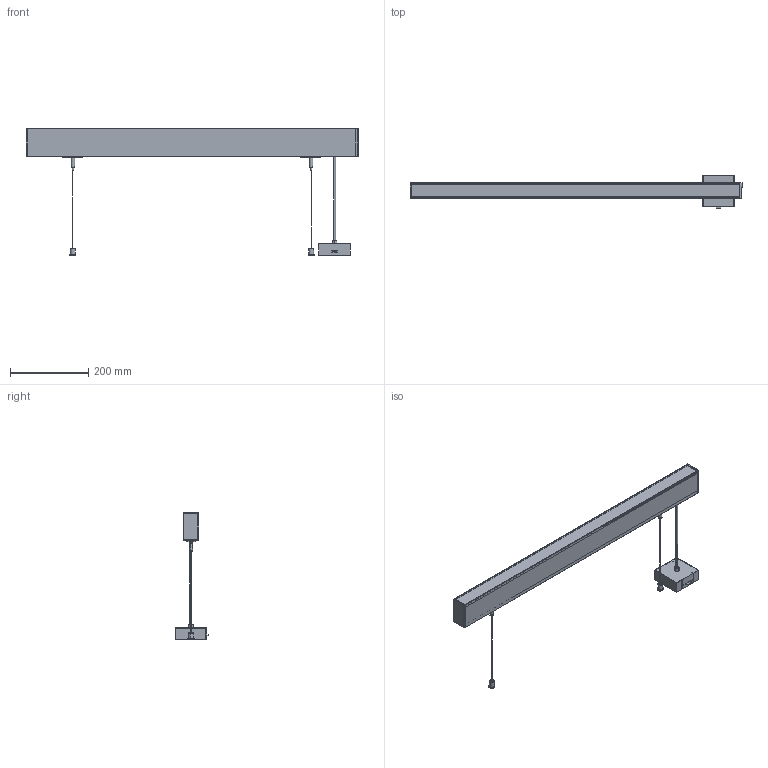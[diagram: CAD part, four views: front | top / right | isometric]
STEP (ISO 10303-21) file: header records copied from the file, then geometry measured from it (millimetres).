
FILE_DESCRIPTION(/* description */ (''),/* implementation_level */ '2;1');
FILE_NAME(/* name */ 'C:\Users\FrancoSartori\Documents\FARO\01_En Proceso\0000_2022\000_PRO\00_VIA EVOLUTION\01_RFA_3D_Trabajo\suspension_kit_3d.stp',/* time_stamp */ '2022-08-03T12:39:07+02:00',/* author */ ('FrancoSartori'),/* organization */ (''),/* preprocessor_version */ 'ST-DEVELOPER v19',/* originating_system */ 'AutoCAD Mechanical',/* authorisation */ '');
FILE_SCHEMA (('AUTOMOTIVE_DESIGN { 1 0 10303 214 3 1 1 }'));
Length unit declared in the file: millimetre
Products named in the file (2): Product; VIA S_ - Lamp-365793-Export
Assembly tree (1 placements, depth 2):
  Product
    VIA S_ - Lamp-365793-Export
Bounding box: 850 x 86.28 x 323.55 mm (x, y, z)
Volume: 507051.7 mm3; surface area: 799576.4 mm2
Topology: 20 solids, 27 shells, 703 faces, 1973 edges, 1278 vertices
Faces by surface type: plane 460, cylinder 241, cone 2
Entity records: 24093 total; most frequent: CARTESIAN_POINT 5671, DIRECTION 3787, ORIENTED_EDGE 3774, EDGE_CURVE 1973, LINE 1397, VECTOR 1397, VERTEX_POINT 1278, AXIS2_PLACEMENT_3D 1195
